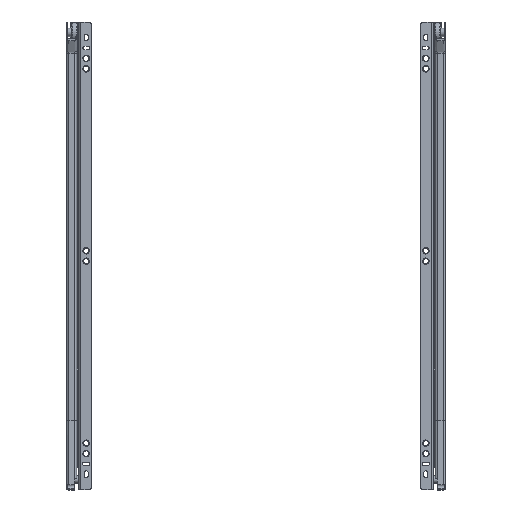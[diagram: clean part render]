
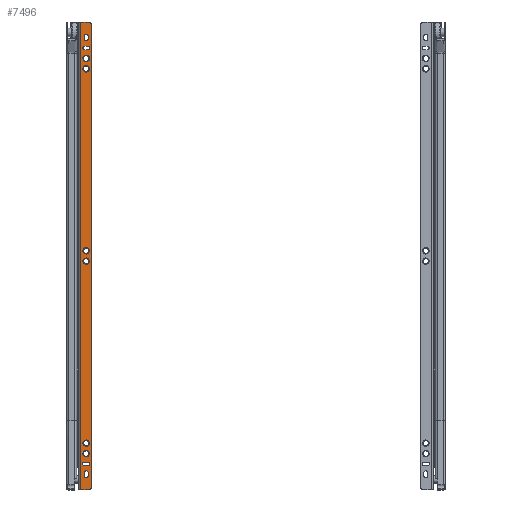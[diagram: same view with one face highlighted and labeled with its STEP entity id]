
A CAD part, front view. The second image highlights one B-rep face of the part: STEP entity #7496.
In plain terms, the highlighted planar face has unit normal (0, -1, 0.001).
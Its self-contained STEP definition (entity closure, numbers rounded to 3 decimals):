
#645=LINE('',#12297,#1155);
#646=LINE('',#12299,#1156);
#647=LINE('',#12301,#1157);
#648=LINE('',#12304,#1158);
#649=LINE('',#12315,#1159);
#650=LINE('',#12318,#1160);
#651=LINE('',#12323,#1161);
#652=LINE('',#12326,#1162);
#653=LINE('',#12331,#1163);
#654=LINE('',#12334,#1164);
#655=LINE('',#12339,#1165);
#656=LINE('',#12342,#1166);
#1155=VECTOR('',#10020,8.);
#1156=VECTOR('',#10021,450.);
#1157=VECTOR('',#10022,8.);
#1158=VECTOR('',#10025,446.);
#1159=VECTOR('',#10034,2.5);
#1160=VECTOR('',#10037,2.5);
#1161=VECTOR('',#10040,2.7);
#1162=VECTOR('',#10043,2.7);
#1163=VECTOR('',#10046,3.);
#1164=VECTOR('',#10049,3.);
#1165=VECTOR('',#10052,3.);
#1166=VECTOR('',#10055,3.);
#1423=PLANE('',#8219);
#1608=FACE_BOUND('',#2562,.T.);
#1609=FACE_BOUND('',#2563,.T.);
#1610=FACE_BOUND('',#2564,.T.);
#1611=FACE_BOUND('',#2565,.T.);
#1612=FACE_BOUND('',#2566,.T.);
#1613=FACE_BOUND('',#2567,.T.);
#1614=FACE_BOUND('',#2568,.T.);
#1615=FACE_BOUND('',#2569,.T.);
#1616=FACE_BOUND('',#2570,.T.);
#1617=FACE_BOUND('',#2571,.T.);
#2000=FACE_OUTER_BOUND('',#2561,.T.);
#2561=EDGE_LOOP('',(#6093,#6094,#6095,#6096,#6097,#6098));
#2562=EDGE_LOOP('',(#6099));
#2563=EDGE_LOOP('',(#6100));
#2564=EDGE_LOOP('',(#6101));
#2565=EDGE_LOOP('',(#6102,#6103,#6104,#6105));
#2566=EDGE_LOOP('',(#6106,#6107,#6108,#6109));
#2567=EDGE_LOOP('',(#6110,#6111,#6112,#6113));
#2568=EDGE_LOOP('',(#6114,#6115,#6116,#6117));
#2569=EDGE_LOOP('',(#6118));
#2570=EDGE_LOOP('',(#6119));
#2571=EDGE_LOOP('',(#6120));
#3070=CIRCLE('',#8218,3.2);
#3071=CIRCLE('',#8220,2.);
#3072=CIRCLE('',#8221,2.);
#3073=CIRCLE('',#8222,3.1);
#3074=CIRCLE('',#8223,3.1);
#3075=CIRCLE('',#8224,3.2);
#3076=CIRCLE('',#8225,2.);
#3077=CIRCLE('',#8226,2.);
#3078=CIRCLE('',#8227,1.9);
#3079=CIRCLE('',#8228,1.9);
#3080=CIRCLE('',#8229,1.9);
#3081=CIRCLE('',#8230,1.9);
#3082=CIRCLE('',#8231,1.9);
#3083=CIRCLE('',#8232,1.9);
#3084=CIRCLE('',#8233,3.1);
#3085=CIRCLE('',#8234,3.1);
#3630=VERTEX_POINT('',#12290);
#3631=VERTEX_POINT('',#12293);
#3632=VERTEX_POINT('',#12294);
#3633=VERTEX_POINT('',#12296);
#3634=VERTEX_POINT('',#12298);
#3635=VERTEX_POINT('',#12300);
#3636=VERTEX_POINT('',#12302);
#3637=VERTEX_POINT('',#12305);
#3638=VERTEX_POINT('',#12307);
#3639=VERTEX_POINT('',#12309);
#3640=VERTEX_POINT('',#12311);
#3641=VERTEX_POINT('',#12312);
#3642=VERTEX_POINT('',#12314);
#3643=VERTEX_POINT('',#12316);
#3644=VERTEX_POINT('',#12319);
#3645=VERTEX_POINT('',#12320);
#3646=VERTEX_POINT('',#12322);
#3647=VERTEX_POINT('',#12324);
#3648=VERTEX_POINT('',#12327);
#3649=VERTEX_POINT('',#12328);
#3650=VERTEX_POINT('',#12330);
#3651=VERTEX_POINT('',#12332);
#3652=VERTEX_POINT('',#12335);
#3653=VERTEX_POINT('',#12336);
#3654=VERTEX_POINT('',#12338);
#3655=VERTEX_POINT('',#12340);
#3656=VERTEX_POINT('',#12343);
#3657=VERTEX_POINT('',#12345);
#4500=EDGE_CURVE('',#3630,#3630,#3070,.T.);
#4501=EDGE_CURVE('',#3631,#3632,#3071,.T.);
#4502=EDGE_CURVE('',#3633,#3631,#645,.T.);
#4503=EDGE_CURVE('',#3634,#3633,#646,.T.);
#4504=EDGE_CURVE('',#3634,#3635,#647,.T.);
#4505=EDGE_CURVE('',#3636,#3635,#3072,.T.);
#4506=EDGE_CURVE('',#3636,#3632,#648,.T.);
#4507=EDGE_CURVE('',#3637,#3637,#3073,.T.);
#4508=EDGE_CURVE('',#3638,#3638,#3074,.T.);
#4509=EDGE_CURVE('',#3639,#3639,#3075,.T.);
#4510=EDGE_CURVE('',#3640,#3641,#3076,.T.);
#4511=EDGE_CURVE('',#3641,#3642,#649,.T.);
#4512=EDGE_CURVE('',#3642,#3643,#3077,.T.);
#4513=EDGE_CURVE('',#3643,#3640,#650,.T.);
#4514=EDGE_CURVE('',#3644,#3645,#3078,.T.);
#4515=EDGE_CURVE('',#3645,#3646,#651,.T.);
#4516=EDGE_CURVE('',#3646,#3647,#3079,.T.);
#4517=EDGE_CURVE('',#3647,#3644,#652,.T.);
#4518=EDGE_CURVE('',#3648,#3649,#3080,.T.);
#4519=EDGE_CURVE('',#3649,#3650,#653,.T.);
#4520=EDGE_CURVE('',#3650,#3651,#3081,.T.);
#4521=EDGE_CURVE('',#3651,#3648,#654,.T.);
#4522=EDGE_CURVE('',#3652,#3653,#3082,.T.);
#4523=EDGE_CURVE('',#3653,#3654,#655,.T.);
#4524=EDGE_CURVE('',#3654,#3655,#3083,.T.);
#4525=EDGE_CURVE('',#3655,#3652,#656,.T.);
#4526=EDGE_CURVE('',#3656,#3656,#3084,.T.);
#4527=EDGE_CURVE('',#3657,#3657,#3085,.T.);
#6093=ORIENTED_EDGE('',*,*,#4501,.F.);
#6094=ORIENTED_EDGE('',*,*,#4502,.F.);
#6095=ORIENTED_EDGE('',*,*,#4503,.F.);
#6096=ORIENTED_EDGE('',*,*,#4504,.T.);
#6097=ORIENTED_EDGE('',*,*,#4505,.F.);
#6098=ORIENTED_EDGE('',*,*,#4506,.T.);
#6099=ORIENTED_EDGE('',*,*,#4507,.F.);
#6100=ORIENTED_EDGE('',*,*,#4508,.F.);
#6101=ORIENTED_EDGE('',*,*,#4509,.F.);
#6102=ORIENTED_EDGE('',*,*,#4510,.T.);
#6103=ORIENTED_EDGE('',*,*,#4511,.T.);
#6104=ORIENTED_EDGE('',*,*,#4512,.T.);
#6105=ORIENTED_EDGE('',*,*,#4513,.T.);
#6106=ORIENTED_EDGE('',*,*,#4514,.T.);
#6107=ORIENTED_EDGE('',*,*,#4515,.T.);
#6108=ORIENTED_EDGE('',*,*,#4516,.T.);
#6109=ORIENTED_EDGE('',*,*,#4517,.T.);
#6110=ORIENTED_EDGE('',*,*,#4518,.T.);
#6111=ORIENTED_EDGE('',*,*,#4519,.T.);
#6112=ORIENTED_EDGE('',*,*,#4520,.T.);
#6113=ORIENTED_EDGE('',*,*,#4521,.T.);
#6114=ORIENTED_EDGE('',*,*,#4522,.T.);
#6115=ORIENTED_EDGE('',*,*,#4523,.T.);
#6116=ORIENTED_EDGE('',*,*,#4524,.T.);
#6117=ORIENTED_EDGE('',*,*,#4525,.T.);
#6118=ORIENTED_EDGE('',*,*,#4526,.F.);
#6119=ORIENTED_EDGE('',*,*,#4527,.F.);
#6120=ORIENTED_EDGE('',*,*,#4500,.F.);
#7496=ADVANCED_FACE('',(#2000,#1608,#1609,#1610,#1611,#1612,#1613,#1614,
#1615,#1616,#1617),#1423,.T.);
#8218=AXIS2_PLACEMENT_3D('',#12291,#10014,#10015);
#8219=AXIS2_PLACEMENT_3D('',#12292,#10016,#10017);
#8220=AXIS2_PLACEMENT_3D('',#12295,#10018,#10019);
#8221=AXIS2_PLACEMENT_3D('',#12303,#10023,#10024);
#8222=AXIS2_PLACEMENT_3D('',#12306,#10026,#10027);
#8223=AXIS2_PLACEMENT_3D('',#12308,#10028,#10029);
#8224=AXIS2_PLACEMENT_3D('',#12310,#10030,#10031);
#8225=AXIS2_PLACEMENT_3D('',#12313,#10032,#10033);
#8226=AXIS2_PLACEMENT_3D('',#12317,#10035,#10036);
#8227=AXIS2_PLACEMENT_3D('',#12321,#10038,#10039);
#8228=AXIS2_PLACEMENT_3D('',#12325,#10041,#10042);
#8229=AXIS2_PLACEMENT_3D('',#12329,#10044,#10045);
#8230=AXIS2_PLACEMENT_3D('',#12333,#10047,#10048);
#8231=AXIS2_PLACEMENT_3D('',#12337,#10050,#10051);
#8232=AXIS2_PLACEMENT_3D('',#12341,#10053,#10054);
#8233=AXIS2_PLACEMENT_3D('',#12344,#10056,#10057);
#8234=AXIS2_PLACEMENT_3D('',#12346,#10058,#10059);
#10014=DIRECTION('center_axis',(0.,-1.,0.));
#10015=DIRECTION('ref_axis',(-1.,0.,0.));
#10016=DIRECTION('center_axis',(0.,-1.,0.));
#10017=DIRECTION('ref_axis',(1.,0.,0.));
#10018=DIRECTION('center_axis',(0.,1.,0.));
#10019=DIRECTION('ref_axis',(-0.707,0.,0.707));
#10020=DIRECTION('',(0.,0.,1.));
#10021=DIRECTION('',(-1.,0.,0.));
#10022=DIRECTION('',(0.,0.,1.));
#10023=DIRECTION('center_axis',(0.,1.,0.));
#10024=DIRECTION('ref_axis',(0.707,0.,0.707));
#10025=DIRECTION('',(-1.,0.,0.));
#10026=DIRECTION('center_axis',(0.,-1.,0.));
#10027=DIRECTION('ref_axis',(-1.,0.,0.));
#10028=DIRECTION('center_axis',(0.,-1.,0.));
#10029=DIRECTION('ref_axis',(-1.,0.,0.));
#10030=DIRECTION('center_axis',(0.,-1.,0.));
#10031=DIRECTION('ref_axis',(-1.,0.,0.));
#10032=DIRECTION('center_axis',(0.,1.,0.));
#10033=DIRECTION('ref_axis',(0.,0.,1.));
#10034=DIRECTION('',(-1.,0.,0.));
#10035=DIRECTION('center_axis',(0.,1.,0.));
#10036=DIRECTION('ref_axis',(0.,0.,-1.));
#10037=DIRECTION('',(1.,0.,0.));
#10038=DIRECTION('center_axis',(0.,1.,0.));
#10039=DIRECTION('ref_axis',(1.,0.,0.));
#10040=DIRECTION('',(0.,0.,1.));
#10041=DIRECTION('center_axis',(0.,1.,0.));
#10042=DIRECTION('ref_axis',(-1.,0.,0.));
#10043=DIRECTION('',(0.,0.,-1.));
#10044=DIRECTION('center_axis',(0.,1.,0.));
#10045=DIRECTION('ref_axis',(1.,0.,0.));
#10046=DIRECTION('',(0.,0.,1.));
#10047=DIRECTION('center_axis',(0.,1.,0.));
#10048=DIRECTION('ref_axis',(-1.,0.,0.));
#10049=DIRECTION('',(0.,0.,-1.));
#10050=DIRECTION('center_axis',(0.,1.,0.));
#10051=DIRECTION('ref_axis',(0.,0.,1.));
#10052=DIRECTION('',(-1.,0.,0.));
#10053=DIRECTION('center_axis',(0.,1.,0.));
#10054=DIRECTION('ref_axis',(0.,0.,-1.));
#10055=DIRECTION('',(1.,0.,0.));
#10056=DIRECTION('center_axis',(0.,-1.,0.));
#10057=DIRECTION('ref_axis',(-1.,0.,0.));
#10058=DIRECTION('center_axis',(0.,-1.,0.));
#10059=DIRECTION('ref_axis',(-1.,0.,0.));
#12290=CARTESIAN_POINT('',(-391.8,-12.,7.1));
#12291=CARTESIAN_POINT('Origin',(-395.,-12.,7.1));
#12292=CARTESIAN_POINT('Origin',(-440.,-12.,0.));
#12293=CARTESIAN_POINT('',(-440.,-12.,10.));
#12294=CARTESIAN_POINT('',(-438.,-12.,12.));
#12295=CARTESIAN_POINT('Origin',(-438.,-12.,10.));
#12296=CARTESIAN_POINT('',(-440.,-12.,2.));
#12297=CARTESIAN_POINT('',(-440.,-12.,0.));
#12298=CARTESIAN_POINT('',(10.,-12.,2.));
#12299=CARTESIAN_POINT('',(-327.117,-12.,2.));
#12300=CARTESIAN_POINT('',(10.,-12.,10.));
#12301=CARTESIAN_POINT('',(10.,-12.,0.));
#12302=CARTESIAN_POINT('',(8.,-12.,12.));
#12303=CARTESIAN_POINT('Origin',(8.,-12.,10.));
#12304=CARTESIAN_POINT('',(10.,-12.,12.));
#12305=CARTESIAN_POINT('',(-31.9,-12.,7.1));
#12306=CARTESIAN_POINT('Origin',(-35.,-12.,7.1));
#12307=CARTESIAN_POINT('',(-206.9,-12.,7.1));
#12308=CARTESIAN_POINT('Origin',(-210.,-12.,7.1));
#12309=CARTESIAN_POINT('',(-401.8,-12.,7.1));
#12310=CARTESIAN_POINT('Origin',(-405.,-12.,7.1));
#12311=CARTESIAN_POINT('',(-423.75,-12.,9.1));
#12312=CARTESIAN_POINT('',(-423.75,-12.,5.1));
#12313=CARTESIAN_POINT('Origin',(-423.75,-12.,7.1));
#12314=CARTESIAN_POINT('',(-426.25,-12.,5.1));
#12315=CARTESIAN_POINT('',(-433.125,-12.,5.1));
#12316=CARTESIAN_POINT('',(-426.25,-12.,9.1));
#12317=CARTESIAN_POINT('Origin',(-426.25,-12.,7.1));
#12318=CARTESIAN_POINT('',(-431.875,-12.,9.1));
#12319=CARTESIAN_POINT('',(-413.1,-12.,5.75));
#12320=CARTESIAN_POINT('',(-416.9,-12.,5.75));
#12321=CARTESIAN_POINT('Origin',(-415.,-12.,5.75));
#12322=CARTESIAN_POINT('',(-416.9,-12.,8.45));
#12323=CARTESIAN_POINT('',(-416.9,-12.,4.225));
#12324=CARTESIAN_POINT('',(-413.1,-12.,8.45));
#12325=CARTESIAN_POINT('Origin',(-415.,-12.,8.45));
#12326=CARTESIAN_POINT('',(-413.1,-12.,2.875));
#12327=CARTESIAN_POINT('',(-13.1,-12.,5.6));
#12328=CARTESIAN_POINT('',(-16.9,-12.,5.6));
#12329=CARTESIAN_POINT('Origin',(-15.,-12.,5.6));
#12330=CARTESIAN_POINT('',(-16.9,-12.,8.6));
#12331=CARTESIAN_POINT('',(-16.9,-12.,4.3));
#12332=CARTESIAN_POINT('',(-13.1,-12.,8.6));
#12333=CARTESIAN_POINT('Origin',(-15.,-12.,8.6));
#12334=CARTESIAN_POINT('',(-13.1,-12.,2.8));
#12335=CARTESIAN_POINT('',(-3.5,-12.,9.));
#12336=CARTESIAN_POINT('',(-3.5,-12.,5.2));
#12337=CARTESIAN_POINT('Origin',(-3.5,-12.,7.1));
#12338=CARTESIAN_POINT('',(-6.5,-12.,5.2));
#12339=CARTESIAN_POINT('',(-223.25,-12.,5.2));
#12340=CARTESIAN_POINT('',(-6.5,-12.,9.));
#12341=CARTESIAN_POINT('Origin',(-6.5,-12.,7.1));
#12342=CARTESIAN_POINT('',(-221.75,-12.,9.));
#12343=CARTESIAN_POINT('',(-216.9,-12.,7.1));
#12344=CARTESIAN_POINT('Origin',(-220.,-12.,7.1));
#12345=CARTESIAN_POINT('',(-21.9,-12.,7.1));
#12346=CARTESIAN_POINT('Origin',(-25.,-12.,7.1));
